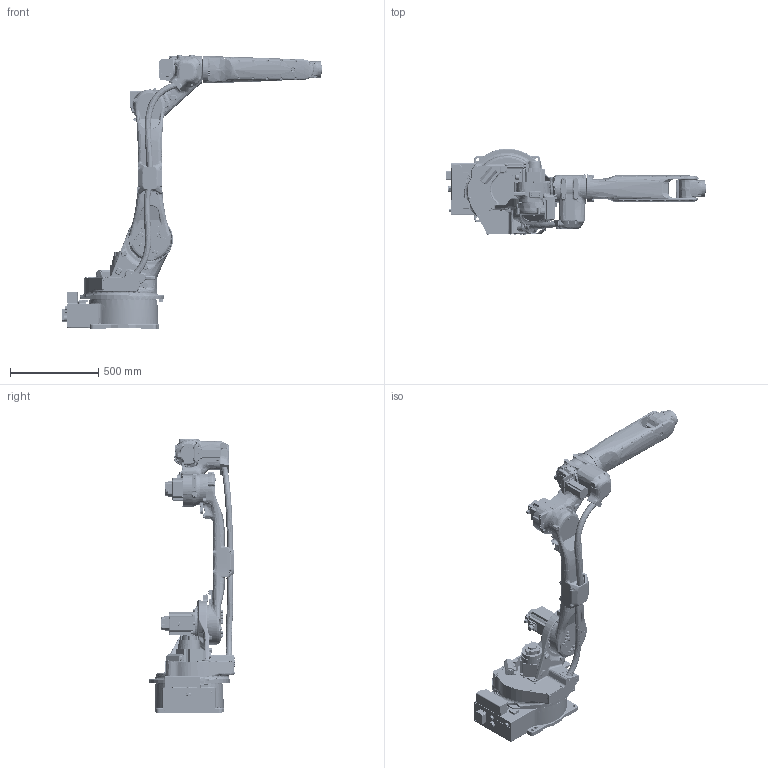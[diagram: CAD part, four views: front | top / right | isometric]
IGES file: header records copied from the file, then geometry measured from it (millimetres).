
Start section: SolidWorks IGES file using analytic representation for surfaces
Global section: file name: Y:\50 ProjectManagement\50.30 Development Projects\Y20-001D_GP20\01 - Design Department\02 - Mechanical Design\02 - Documentation\xxxxxx_YR-1-06VX25-20-A00_(Floor)\Drawing\3D\GP20.IGS; native system: SolidWorks 2019; preprocessor: SolidWorks 2019; author: jezerd; date: 211103.190653; units: millimetre
Bounding box: 1472.85 x 490.5 x 1546 mm (x, y, z)
Surface area: 3627579.1 mm2 (no closed solid volume)
Topology: 0 solids, 0 shells, 7586 faces, 97558 edges, 97402 vertices
Faces by surface type: bspline 4684, revolution 2902
